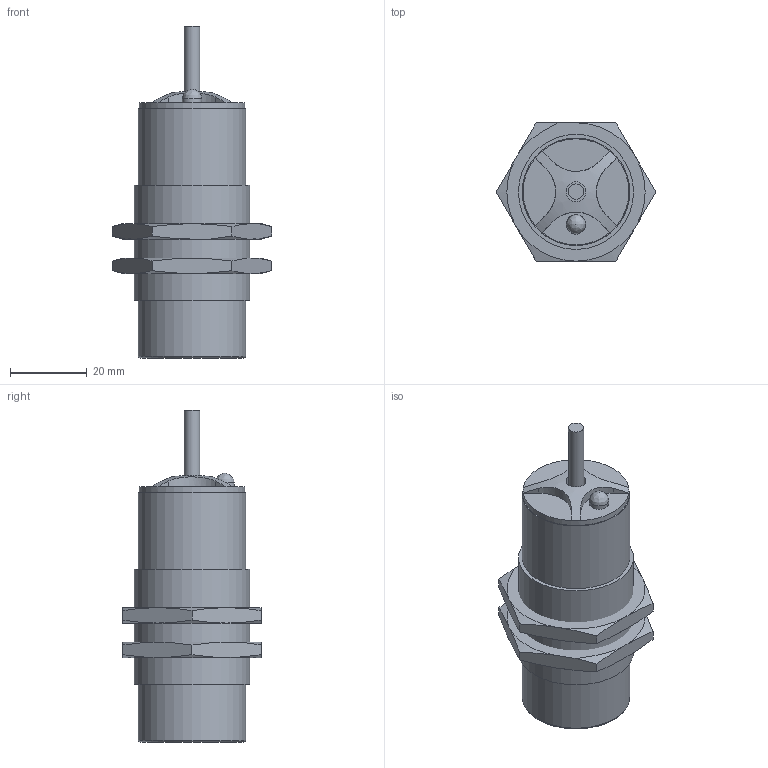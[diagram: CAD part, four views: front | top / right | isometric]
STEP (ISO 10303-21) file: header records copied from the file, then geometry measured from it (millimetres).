
FILE_DESCRIPTION(/* description */ (''),/* implementation_level */ '2;1');
FILE_NAME(/* name */ '3DCAD_IS130MM_1NO_15N.stp',/* time_stamp */ '2025-06-30T10:26:20+02:00',/* author */ ('CC2'),/* organization */ ('Leuze electronic'),/* preprocessor_version */ 'ST-DEVELOPER v19.4',/* originating_system */ 'SIEMENS PLM Software NX2306.9180',/* authorisation */ '');
FILE_SCHEMA (('AUTOMOTIVE_DESIGN { 1 0 10303 214 3 1 1 1 }'));
Length unit declared in the file: millimetre
Products named in the file (2): 012169_00.0_1-SKT-Mutter M30 SW36; 19-103911_00_1-3DCAD_IS130MM_1NO_15N
Assembly tree (2 placements, depth 2):
  19-103911_00_1-3DCAD_IS130MM_1NO_15N
    012169_00.0_1-SKT-Mutter M30 SW36  x2
Bounding box: 41.57 x 36 x 86.5 mm (x, y, z)
Volume: 48127.7 mm3; surface area: 11533.3 mm2
Topology: 3 solids, 3 shells, 76 faces, 189 edges, 125 vertices
Faces by surface type: plane 35, bspline 26, cylinder 13, torus 1, sphere 1
Full cylindrical faces by diameter (mm): 4 x1, 5.1 x1, 5.2 x1, 27.6 x1, 28 x2, 28.376 x2, 30 x1
Entity records: 2013 total; most frequent: CARTESIAN_POINT 792, ORIENTED_EDGE 230, DIRECTION 216, EDGE_CURVE 115, AXIS2_PLACEMENT_3D 91, VERTEX_POINT 82, EDGE_LOOP 74, ADVANCED_FACE 55
